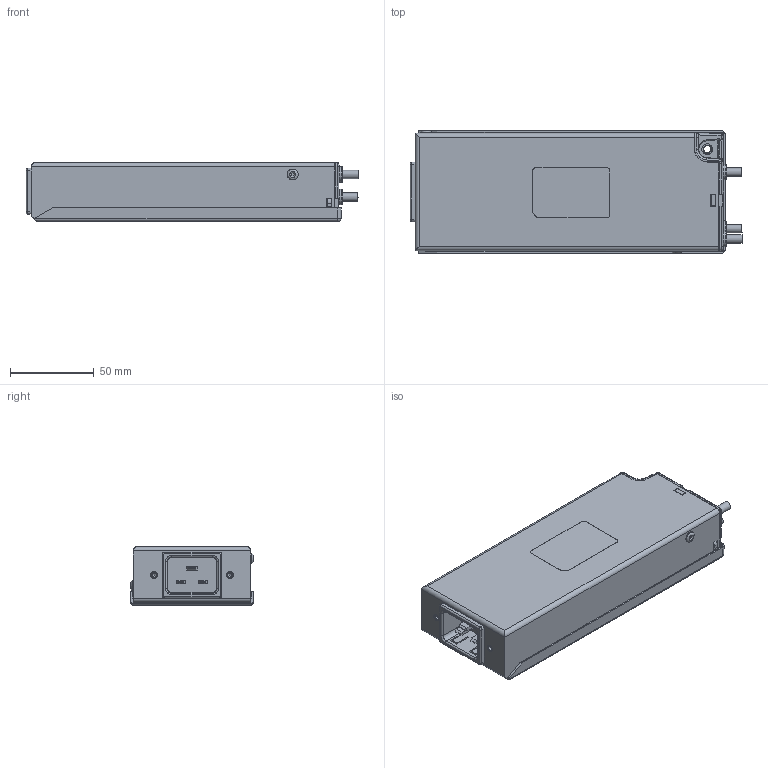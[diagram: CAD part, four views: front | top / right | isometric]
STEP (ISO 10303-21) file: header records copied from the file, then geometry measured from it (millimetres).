
FILE_DESCRIPTION(/* description */ (''),/* implementation_level */ '2;1');
FILE_NAME(/* name */ 'C:\Users\Christian.Ackermann\OneDrive - Schaffner EMV AG\Desktop\UMA_customerSTEP\FN266x-16_20-07.stp',/* time_stamp */ '2021-11-30T11:46:44+01:00',/* author */ ('Christian.Ackermann'),/* organization */ (''),/* preprocessor_version */ 'ST-DEVELOPER v18.1',/* originating_system */ 'Autodesk Inventor 2020',/* authorisation */ '');
FILE_SCHEMA (('AUTOMOTIVE_DESIGN { 1 0 10303 214 3 1 1 }'));
Length unit declared in the file: millimetre
Products named in the file (1): FN266x-16_20-07
Bounding box: 197.7 x 73 x 35.06 mm (x, y, z)
Volume: 429163.8 mm3; surface area: 82729 mm2
Topology: 3 solids, 3 shells, 951 faces, 2473 edges, 1529 vertices
Faces by surface type: plane 500, cylinder 257, bspline 99, cone 38, torus 34, sphere 23
Full cylindrical faces by diameter (mm): 2 x2, 2.459 x2, 4.2 x1, 4.25 x2, 5 x3, 6.4 x1, 6.5 x2, 8.39 x2, 8.74 x3
Entity records: 32800 total; most frequent: CARTESIAN_POINT 8431, ORIENTED_EDGE 4916, DIRECTION 4800, EDGE_CURVE 2458, AXIS2_PLACEMENT_3D 1618, LINE 1564, VECTOR 1564, VERTEX_POINT 1529
